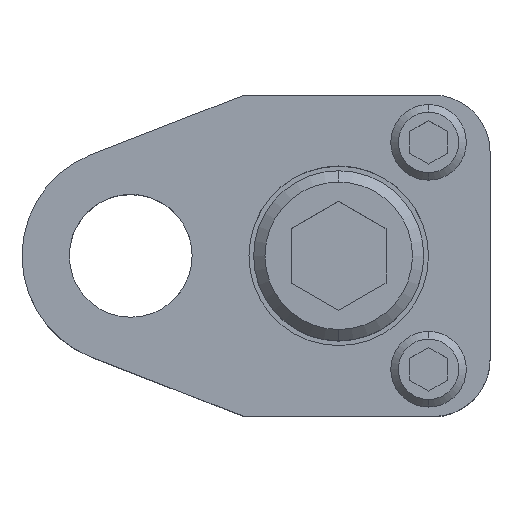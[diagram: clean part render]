
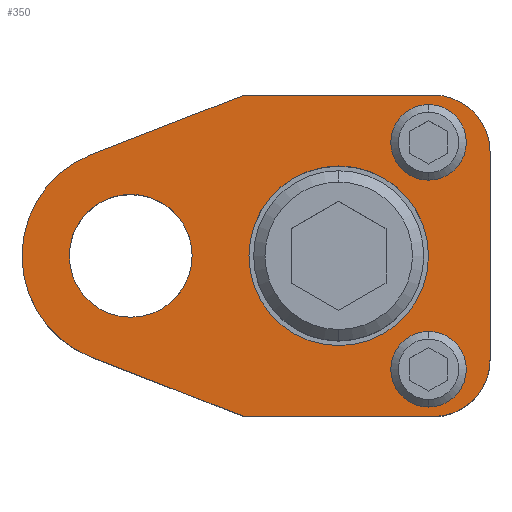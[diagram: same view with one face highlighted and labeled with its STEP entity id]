
A CAD part, top view. The second image highlights one B-rep face of the part: STEP entity #350.
In plain terms, the highlighted planar face has unit normal (0, 0, 1).
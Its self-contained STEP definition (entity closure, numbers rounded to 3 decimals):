
#177=FACE_BOUND('',#611,.T.);
#178=FACE_BOUND('',#612,.T.);
#179=FACE_BOUND('',#613,.T.);
#180=FACE_BOUND('',#614,.T.);
#181=FACE_BOUND('',#615,.T.);
#220=CIRCLE('',#1916,6.);
#223=CIRCLE('',#1922,6.);
#225=CIRCLE('',#1927,11.5);
#227=CIRCLE('',#1931,4.);
#229=CIRCLE('',#1934,4.);
#231=CIRCLE('',#1937,4.);
#233=CIRCLE('',#1940,4.);
#238=CIRCLE('',#1948,9.5);
#239=CIRCLE('',#1949,9.5);
#240=CIRCLE('',#1950,6.5);
#241=CIRCLE('',#1951,6.5);
#350=ADVANCED_FACE('',(#177,#178,#179,#180,#181),#440,.T.);
#440=PLANE('',#1952);
#611=EDGE_LOOP('',(#888,#889,#890,#891,#892,#893,#894,#895));
#612=EDGE_LOOP('',(#896,#897));
#613=EDGE_LOOP('',(#898,#899));
#614=EDGE_LOOP('',(#900,#901));
#615=EDGE_LOOP('',(#902,#903));
#888=ORIENTED_EDGE('',*,*,#1407,.T.);
#889=ORIENTED_EDGE('',*,*,#1411,.T.);
#890=ORIENTED_EDGE('',*,*,#1414,.T.);
#891=ORIENTED_EDGE('',*,*,#1425,.T.);
#892=ORIENTED_EDGE('',*,*,#1433,.T.);
#893=ORIENTED_EDGE('',*,*,#1430,.T.);
#894=ORIENTED_EDGE('',*,*,#1417,.T.);
#895=ORIENTED_EDGE('',*,*,#1421,.T.);
#896=ORIENTED_EDGE('',*,*,#1457,.F.);
#897=ORIENTED_EDGE('',*,*,#1458,.F.);
#898=ORIENTED_EDGE('',*,*,#1450,.F.);
#899=ORIENTED_EDGE('',*,*,#1447,.F.);
#900=ORIENTED_EDGE('',*,*,#1444,.F.);
#901=ORIENTED_EDGE('',*,*,#1441,.F.);
#902=ORIENTED_EDGE('',*,*,#1459,.T.);
#903=ORIENTED_EDGE('',*,*,#1460,.T.);
#1226=VERTEX_POINT('',#2784);
#1227=VERTEX_POINT('',#2786);
#1230=VERTEX_POINT('',#2793);
#1232=VERTEX_POINT('',#2799);
#1234=VERTEX_POINT('',#2805);
#1235=VERTEX_POINT('',#2807);
#1240=VERTEX_POINT('',#2821);
#1244=VERTEX_POINT('',#2832);
#1250=VERTEX_POINT('',#2856);
#1251=VERTEX_POINT('',#2858);
#1254=VERTEX_POINT('',#2868);
#1255=VERTEX_POINT('',#2870);
#1260=VERTEX_POINT('',#2889);
#1261=VERTEX_POINT('',#2890);
#1262=VERTEX_POINT('',#2893);
#1263=VERTEX_POINT('',#2894);
#1407=EDGE_CURVE('',#1227,#1226,#1637,.T.);
#1411=EDGE_CURVE('',#1226,#1230,#220,.T.);
#1414=EDGE_CURVE('',#1230,#1232,#1642,.T.);
#1417=EDGE_CURVE('',#1235,#1234,#1645,.T.);
#1421=EDGE_CURVE('',#1234,#1227,#223,.T.);
#1425=EDGE_CURVE('',#1232,#1240,#1651,.T.);
#1430=EDGE_CURVE('',#1244,#1235,#1656,.T.);
#1433=EDGE_CURVE('',#1240,#1244,#225,.T.);
#1441=EDGE_CURVE('',#1250,#1251,#227,.T.);
#1444=EDGE_CURVE('',#1251,#1250,#229,.T.);
#1447=EDGE_CURVE('',#1254,#1255,#231,.T.);
#1450=EDGE_CURVE('',#1255,#1254,#233,.T.);
#1457=EDGE_CURVE('',#1260,#1261,#238,.T.);
#1458=EDGE_CURVE('',#1261,#1260,#239,.T.);
#1459=EDGE_CURVE('',#1262,#1263,#240,.T.);
#1460=EDGE_CURVE('',#1263,#1262,#241,.T.);
#1637=LINE('',#2785,#1777);
#1642=LINE('',#2800,#1782);
#1645=LINE('',#2806,#1785);
#1651=LINE('',#2822,#1791);
#1656=LINE('',#2831,#1796);
#1777=VECTOR('',#2224,1.);
#1782=VECTOR('',#2237,1.);
#1785=VECTOR('',#2242,1.);
#1791=VECTOR('',#2256,1.);
#1796=VECTOR('',#2263,1.);
#1916=AXIS2_PLACEMENT_3D('',#2794,#2230,#2231);
#1922=AXIS2_PLACEMENT_3D('',#2813,#2249,#2250);
#1927=AXIS2_PLACEMENT_3D('',#2836,#2269,#2270);
#1931=AXIS2_PLACEMENT_3D('',#2857,#2282,#2283);
#1934=AXIS2_PLACEMENT_3D('',#2862,#2289,#2290);
#1937=AXIS2_PLACEMENT_3D('',#2869,#2296,#2297);
#1940=AXIS2_PLACEMENT_3D('',#2874,#2303,#2304);
#1948=AXIS2_PLACEMENT_3D('',#2888,#2321,#2322);
#1949=AXIS2_PLACEMENT_3D('',#2891,#2323,#2324);
#1950=AXIS2_PLACEMENT_3D('',#2892,#2325,#2326);
#1951=AXIS2_PLACEMENT_3D('',#2895,#2327,#2328);
#1952=AXIS2_PLACEMENT_3D('',#2896,#2329,#2330);
#2224=DIRECTION('',(0.,1.,0.));
#2230=DIRECTION('',(0.,0.,1.));
#2231=DIRECTION('',(-0.707,-0.707,0.));
#2237=DIRECTION('',(-1.,0.,0.));
#2242=DIRECTION('',(1.,0.,0.));
#2249=DIRECTION('',(0.,0.,1.));
#2250=DIRECTION('',(-0.707,0.707,0.));
#2256=DIRECTION('',(-0.932,-0.362,0.));
#2263=DIRECTION('',(0.932,-0.362,0.));
#2269=DIRECTION('',(0.,0.,1.));
#2270=DIRECTION('',(0.,1.,0.));
#2282=DIRECTION('',(0.,0.,1.));
#2283=DIRECTION('',(-1.,0.,0.));
#2289=DIRECTION('',(0.,0.,1.));
#2290=DIRECTION('',(1.,0.,0.));
#2296=DIRECTION('',(0.,0.,1.));
#2297=DIRECTION('',(-1.,0.,0.));
#2303=DIRECTION('',(0.,0.,1.));
#2304=DIRECTION('',(1.,0.,0.));
#2321=DIRECTION('',(0.,0.,1.));
#2322=DIRECTION('',(1.,0.,0.));
#2323=DIRECTION('',(0.,0.,1.));
#2324=DIRECTION('',(-1.,0.,0.));
#2325=DIRECTION('',(0.,0.,-1.));
#2326=DIRECTION('',(-1.,0.,0.));
#2327=DIRECTION('',(0.,0.,-1.));
#2328=DIRECTION('',(1.,0.,0.));
#2329=DIRECTION('',(0.,0.,1.));
#2330=DIRECTION('',(0.,-1.,0.));
#2784=CARTESIAN_POINT('',(38.,11.,25.));
#2785=CARTESIAN_POINT('',(38.,-11.,25.));
#2786=CARTESIAN_POINT('',(38.,-11.,25.));
#2793=CARTESIAN_POINT('',(32.,17.,25.));
#2794=CARTESIAN_POINT('',(32.,11.,25.));
#2799=CARTESIAN_POINT('',(12.,17.,25.));
#2800=CARTESIAN_POINT('',(12.,17.,25.));
#2805=CARTESIAN_POINT('',(32.,-17.,25.));
#2806=CARTESIAN_POINT('',(12.,-17.,25.));
#2807=CARTESIAN_POINT('',(12.,-17.,25.));
#2813=CARTESIAN_POINT('',(32.,-11.,25.));
#2821=CARTESIAN_POINT('',(-4.165,10.719,25.));
#2822=CARTESIAN_POINT('',(12.,17.,25.));
#2831=CARTESIAN_POINT('',(12.,-17.,25.));
#2832=CARTESIAN_POINT('',(-4.165,-10.719,25.));
#2836=CARTESIAN_POINT('',(0.,0.,25.));
#2856=CARTESIAN_POINT('',(31.5,8.,25.));
#2857=CARTESIAN_POINT('',(31.5,12.,25.));
#2858=CARTESIAN_POINT('',(31.5,16.,25.));
#2862=CARTESIAN_POINT('',(31.5,12.,25.));
#2868=CARTESIAN_POINT('',(31.5,-16.,25.));
#2869=CARTESIAN_POINT('',(31.5,-12.,25.));
#2870=CARTESIAN_POINT('',(31.5,-8.,25.));
#2874=CARTESIAN_POINT('',(31.5,-12.,25.));
#2888=CARTESIAN_POINT('',(22.,0.,25.));
#2889=CARTESIAN_POINT('',(22.,9.5,25.));
#2890=CARTESIAN_POINT('',(22.,-9.5,25.));
#2891=CARTESIAN_POINT('',(22.,0.,25.));
#2892=CARTESIAN_POINT('',(0.,0.,25.));
#2893=CARTESIAN_POINT('',(0.,6.5,25.));
#2894=CARTESIAN_POINT('',(0.,-6.5,25.));
#2895=CARTESIAN_POINT('',(0.,0.,25.));
#2896=CARTESIAN_POINT('',(38.,-11.,25.));
